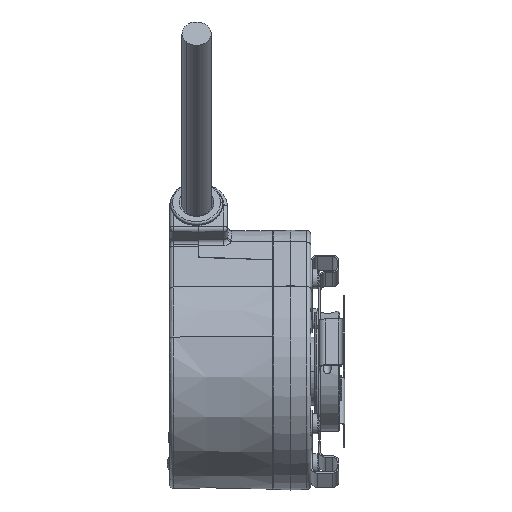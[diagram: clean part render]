
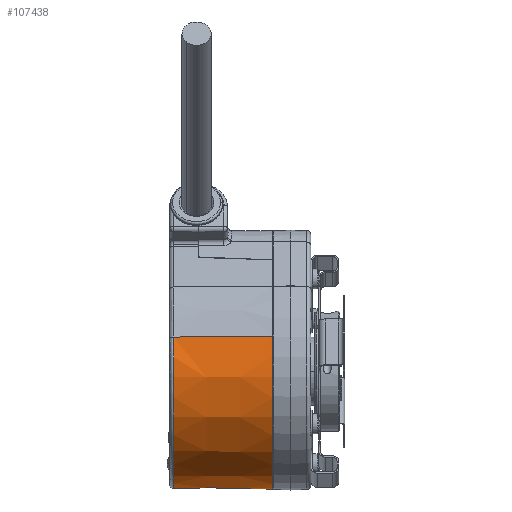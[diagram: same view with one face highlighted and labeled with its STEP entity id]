
A CAD part, front view. The second image highlights one B-rep face of the part: STEP entity #107438.
In plain terms, the highlighted conical face has half-angle 0.5 degrees and reference radius 29.5 mm.
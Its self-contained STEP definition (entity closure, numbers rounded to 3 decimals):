
#3280 = CARTESIAN_POINT ( 'NONE',  ( -9.5, -28.211, 8.625 ) ) ;
#7848 = AXIS2_PLACEMENT_3D ( 'NONE', #61145, #10024, #69751 ) ;
#10024 = DIRECTION ( 'NONE',  ( 1., 0., 0. ) ) ;
#13290 = FACE_OUTER_BOUND ( 'NONE', #30567, .T. ) ;
#14629 = VERTEX_POINT ( 'NONE', #18419 ) ;
#14971 = CARTESIAN_POINT ( 'NONE',  ( -34.309, -28.004, 8.562 ) ) ;
#16048 = EDGE_CURVE ( 'NONE', #41581, #14629, #87179, .T. ) ;
#18419 = CARTESIAN_POINT ( 'NONE',  ( -9.5, 28.211, -8.625 ) ) ;
#29179 = VERTEX_POINT ( 'NONE', #14971 ) ;
#30567 = EDGE_LOOP ( 'NONE', ( #69388, #70892, #93155, #36327 ) ) ;
#36327 = ORIENTED_EDGE ( 'NONE', *, *, #37813, .T. ) ;
#37813 = EDGE_CURVE ( 'NONE', #14629, #91645, #73581, .T. ) ;
#41581 = VERTEX_POINT ( 'NONE', #86310 ) ;
#43396 = EDGE_CURVE ( 'NONE', #29179, #91645, #62286, .T. ) ;
#44851 = CARTESIAN_POINT ( 'NONE',  ( -9.5, 0., 0. ) ) ;
#53278 = DIRECTION ( 'NONE',  ( 1., 0., 0. ) ) ;
#53443 = DIRECTION ( 'NONE',  ( 0., 0.956, -0.292 ) ) ;
#61145 = CARTESIAN_POINT ( 'NONE',  ( -34.309, 0., 0. ) ) ;
#62286 = LINE ( 'NONE', #3280, #107712 ) ;
#64425 = VECTOR ( 'NONE', #103370, 1000. ) ;
#68609 = CARTESIAN_POINT ( 'NONE',  ( -9.5, 28.211, -8.625 ) ) ;
#69388 = ORIENTED_EDGE ( 'NONE', *, *, #43396, .F. ) ;
#69751 = DIRECTION ( 'NONE',  ( 0., -0.956, 0.292 ) ) ;
#70892 = ORIENTED_EDGE ( 'NONE', *, *, #76573, .T. ) ;
#73581 = CIRCLE ( 'NONE', #74327, 29.5 ) ;
#74327 = AXIS2_PLACEMENT_3D ( 'NONE', #44851, #104624, #53443 ) ;
#76573 = EDGE_CURVE ( 'NONE', #29179, #41581, #77397, .T. ) ;
#77397 = CIRCLE ( 'NONE', #7848, 29.283 ) ;
#79437 = DIRECTION ( 'NONE',  ( 1., -0.008, 0.003 ) ) ;
#82537 = AXIS2_PLACEMENT_3D ( 'NONE', #104103, #53278, #87611 ) ;
#84952 = CARTESIAN_POINT ( 'NONE',  ( -9.5, -28.211, 8.625 ) ) ;
#86310 = CARTESIAN_POINT ( 'NONE',  ( -34.309, 28.004, -8.562 ) ) ;
#87179 = LINE ( 'NONE', #68609, #64425 ) ;
#87611 = DIRECTION ( 'NONE',  ( 0., 0.956, -0.292 ) ) ;
#90773 = CONICAL_SURFACE ( 'NONE', #82537, 29.5, 0.009 ) ;
#91645 = VERTEX_POINT ( 'NONE', #84952 ) ;
#93155 = ORIENTED_EDGE ( 'NONE', *, *, #16048, .T. ) ;
#103370 = DIRECTION ( 'NONE',  ( 1., 0.008, -0.003 ) ) ;
#104103 = CARTESIAN_POINT ( 'NONE',  ( -9.5, 0., 0. ) ) ;
#104624 = DIRECTION ( 'NONE',  ( -1., 0., 0. ) ) ;
#107438 = ADVANCED_FACE ( 'NONE', ( #13290 ), #90773, .T. ) ;
#107712 = VECTOR ( 'NONE', #79437, 1000. ) ;
